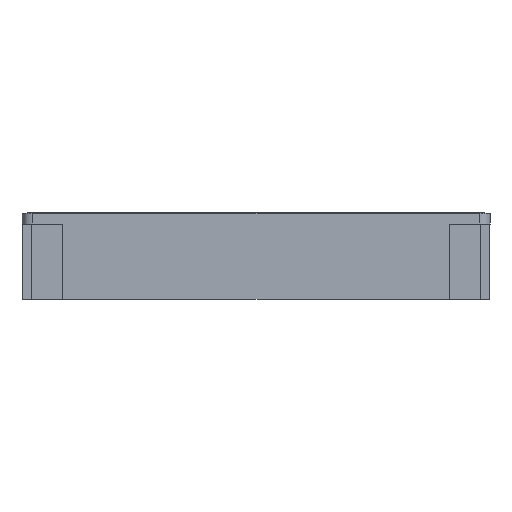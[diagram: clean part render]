
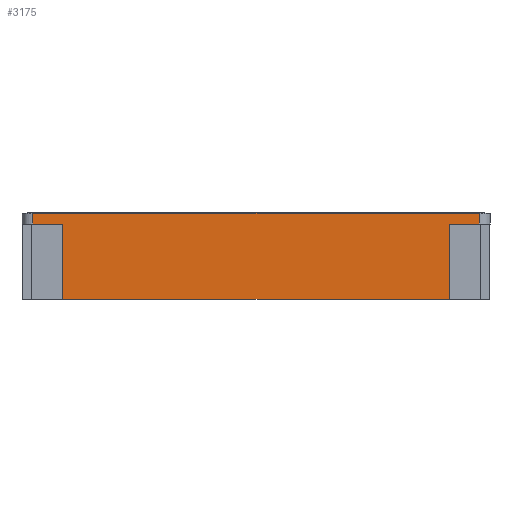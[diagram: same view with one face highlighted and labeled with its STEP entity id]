
A CAD part, front view. The second image highlights one B-rep face of the part: STEP entity #3175.
In plain terms, the highlighted planar face has unit normal (0, -1, 0).
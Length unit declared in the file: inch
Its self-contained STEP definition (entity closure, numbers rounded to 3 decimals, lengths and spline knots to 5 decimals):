
#214 = EDGE_CURVE ( 'NONE', #2939, #1606, #1871, .T. ) ;
#249 = CARTESIAN_POINT ( 'NONE',  ( 3.63907, 1.98819, 0. ) ) ;
#364 = CARTESIAN_POINT ( 'NONE',  ( 0.59191, 1.98819, -0.62992 ) ) ;
#372 = VECTOR ( 'NONE', #2273, 39.37008 ) ;
#551 = DIRECTION ( 'NONE',  ( 0., 0., 1. ) ) ;
#566 = CARTESIAN_POINT ( 'NONE',  ( 3.63907, 1.98819, -0.07874 ) ) ;
#631 = CARTESIAN_POINT ( 'NONE',  ( 1.90293, 1.98819, -0.07874 ) ) ;
#645 = VERTEX_POINT ( 'NONE', #2359 ) ;
#726 = CARTESIAN_POINT ( 'NONE',  ( 3.41851, 1.98819, -5.84835 ) ) ;
#737 = CARTESIAN_POINT ( 'NONE',  ( 0.29261, 1.98819, 0. ) ) ;
#862 = ORIENTED_EDGE ( 'NONE', *, *, #2471, .F. ) ;
#896 = CARTESIAN_POINT ( 'NONE',  ( 0.37135, 1.98819, 0. ) ) ;
#956 = VECTOR ( 'NONE', #1587, 39.37008 ) ;
#1014 = VECTOR ( 'NONE', #1813, 39.37008 ) ;
#1034 = VERTEX_POINT ( 'NONE', #364 ) ;
#1130 = VECTOR ( 'NONE', #2098, 39.37008 ) ;
#1138 = CARTESIAN_POINT ( 'NONE',  ( 1.90293, 1.98819, -0.07874 ) ) ;
#1399 = ORIENTED_EDGE ( 'NONE', *, *, #3229, .F. ) ;
#1403 = CARTESIAN_POINT ( 'NONE',  ( 3.41851, 1.98819, -0.62992 ) ) ;
#1416 = ORIENTED_EDGE ( 'NONE', *, *, #2937, .F. ) ;
#1501 = CARTESIAN_POINT ( 'NONE',  ( 0.59191, 1.98819, -0.07874 ) ) ;
#1505 = LINE ( 'NONE', #1138, #1014 ) ;
#1587 = DIRECTION ( 'NONE',  ( -1., 0., 0. ) ) ;
#1606 = VERTEX_POINT ( 'NONE', #1855 ) ;
#1700 = VECTOR ( 'NONE', #551, 39.37008 ) ;
#1705 = AXIS2_PLACEMENT_3D ( 'NONE', #1948, #1965, #3266 ) ;
#1771 = EDGE_CURVE ( 'NONE', #1814, #3850, #2668, .T. ) ;
#1774 = ORIENTED_EDGE ( 'NONE', *, *, #214, .T. ) ;
#1785 = CARTESIAN_POINT ( 'NONE',  ( 3.41851, 1.98819, -0.07874 ) ) ;
#1813 = DIRECTION ( 'NONE',  ( -1., 0., 0. ) ) ;
#1814 = VERTEX_POINT ( 'NONE', #1403 ) ;
#1842 = LINE ( 'NONE', #249, #372 ) ;
#1855 = CARTESIAN_POINT ( 'NONE',  ( 0.37135, 1.98819, -0.07874 ) ) ;
#1871 = LINE ( 'NONE', #3362, #1130 ) ;
#1890 = ORIENTED_EDGE ( 'NONE', *, *, #1771, .T. ) ;
#1910 = VERTEX_POINT ( 'NONE', #566 ) ;
#1916 = LINE ( 'NONE', #631, #956 ) ;
#1948 = CARTESIAN_POINT ( 'NONE',  ( 2.06229, 1.98819, -0.35433 ) ) ;
#1965 = DIRECTION ( 'NONE',  ( 0., 1., 0. ) ) ;
#1989 = DIRECTION ( 'NONE',  ( 0., 0., 1. ) ) ;
#2009 = VECTOR ( 'NONE', #1989, 39.37008 ) ;
#2019 = DIRECTION ( 'NONE',  ( 1., 0., 0. ) ) ;
#2098 = DIRECTION ( 'NONE',  ( 0., 0., -1. ) ) ;
#2142 = CARTESIAN_POINT ( 'NONE',  ( 0.59191, 1.98819, -5.84835 ) ) ;
#2167 = EDGE_CURVE ( 'NONE', #1814, #1034, #2292, .T. ) ;
#2185 = LINE ( 'NONE', #2142, #1700 ) ;
#2186 = ORIENTED_EDGE ( 'NONE', *, *, #3548, .T. ) ;
#2254 = DIRECTION ( 'NONE',  ( -1., 0., 0. ) ) ;
#2273 = DIRECTION ( 'NONE',  ( 0., 0., 1. ) ) ;
#2292 = LINE ( 'NONE', #3199, #2420 ) ;
#2332 = LINE ( 'NONE', #737, #2567 ) ;
#2356 = PLANE ( 'NONE',  #1705 ) ;
#2359 = CARTESIAN_POINT ( 'NONE',  ( 3.63907, 1.98819, 0. ) ) ;
#2420 = VECTOR ( 'NONE', #2254, 39.37008 ) ;
#2429 = EDGE_CURVE ( 'NONE', #2706, #1606, #1505, .T. ) ;
#2471 = EDGE_CURVE ( 'NONE', #1034, #2706, #2185, .T. ) ;
#2567 = VECTOR ( 'NONE', #2019, 39.37008 ) ;
#2591 = EDGE_LOOP ( 'NONE', ( #3876, #1890, #1416, #2186, #1399, #1774, #3649, #862 ) ) ;
#2668 = LINE ( 'NONE', #726, #2009 ) ;
#2706 = VERTEX_POINT ( 'NONE', #1501 ) ;
#2937 = EDGE_CURVE ( 'NONE', #1910, #3850, #1916, .T. ) ;
#2939 = VERTEX_POINT ( 'NONE', #896 ) ;
#3175 = ADVANCED_FACE ( 'NONE', ( #3582 ), #2356, .F. ) ;
#3199 = CARTESIAN_POINT ( 'NONE',  ( 0.6234, 1.98819, -0.62992 ) ) ;
#3229 = EDGE_CURVE ( 'NONE', #2939, #645, #2332, .T. ) ;
#3266 = DIRECTION ( 'NONE',  ( 0., 0., 1. ) ) ;
#3362 = CARTESIAN_POINT ( 'NONE',  ( 0.37135, 1.98819, -0.07874 ) ) ;
#3548 = EDGE_CURVE ( 'NONE', #1910, #645, #1842, .T. ) ;
#3582 = FACE_OUTER_BOUND ( 'NONE', #2591, .T. ) ;
#3649 = ORIENTED_EDGE ( 'NONE', *, *, #2429, .F. ) ;
#3850 = VERTEX_POINT ( 'NONE', #1785 ) ;
#3876 = ORIENTED_EDGE ( 'NONE', *, *, #2167, .F. ) ;
